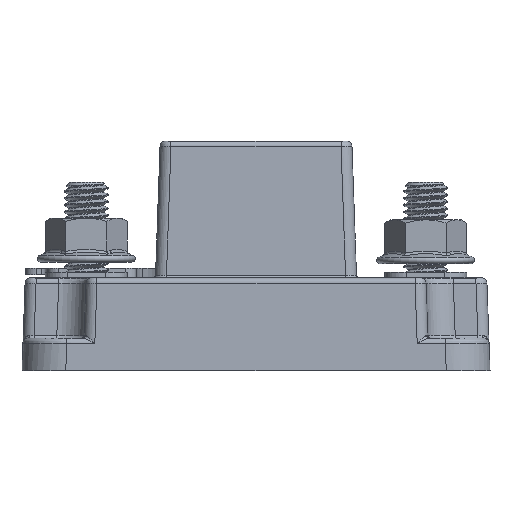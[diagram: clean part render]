
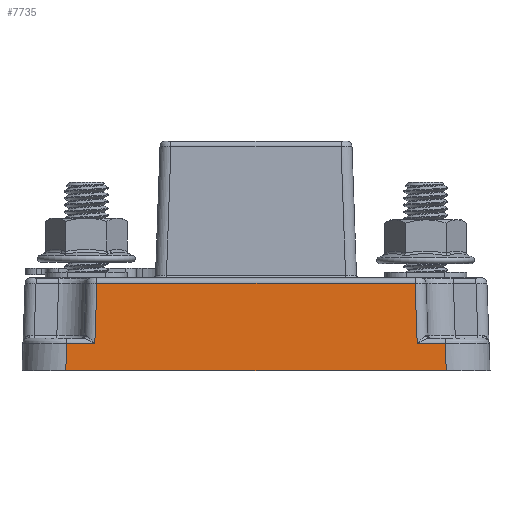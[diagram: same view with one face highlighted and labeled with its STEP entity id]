
A CAD part, front view. The second image highlights one B-rep face of the part: STEP entity #7735.
In plain terms, the highlighted planar face has unit normal (0, -0.999, 0.035).
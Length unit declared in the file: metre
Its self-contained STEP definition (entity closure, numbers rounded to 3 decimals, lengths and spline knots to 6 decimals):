
#368=LINE('',#13275,#962);
#447=LINE('',#13513,#1041);
#448=LINE('',#13515,#1042);
#449=LINE('',#13517,#1043);
#450=LINE('',#13518,#1044);
#451=LINE('',#13519,#1045);
#452=LINE('',#13521,#1046);
#453=LINE('',#13523,#1047);
#962=VECTOR('',#9412,1.);
#1041=VECTOR('',#9591,1.);
#1042=VECTOR('',#9592,1.);
#1043=VECTOR('',#9593,1.);
#1044=VECTOR('',#9594,1.);
#1045=VECTOR('',#9595,1.);
#1046=VECTOR('',#9596,1.);
#1047=VECTOR('',#9597,1.);
#1452=PLANE('',#8359);
#2324=ORIENTED_EDGE('',*,*,#4647,.T.);
#2325=ORIENTED_EDGE('',*,*,#4648,.T.);
#2326=ORIENTED_EDGE('',*,*,#4649,.T.);
#2327=ORIENTED_EDGE('',*,*,#4650,.T.);
#2328=ORIENTED_EDGE('',*,*,#4651,.T.);
#2329=ORIENTED_EDGE('',*,*,#4652,.T.);
#2330=ORIENTED_EDGE('',*,*,#4653,.T.);
#2331=ORIENTED_EDGE('',*,*,#4535,.T.);
#4535=EDGE_CURVE('',#5706,#5705,#368,.F.);
#4647=EDGE_CURVE('',#5705,#5788,#447,.F.);
#4648=EDGE_CURVE('',#5788,#5789,#448,.T.);
#4649=EDGE_CURVE('',#5789,#5543,#449,.F.);
#4650=EDGE_CURVE('',#5543,#5549,#450,.F.);
#4651=EDGE_CURVE('',#5549,#5790,#451,.F.);
#4652=EDGE_CURVE('',#5790,#5791,#452,.T.);
#4653=EDGE_CURVE('',#5791,#5706,#453,.F.);
#5543=VERTEX_POINT('',#12840);
#5549=VERTEX_POINT('',#12873);
#5705=VERTEX_POINT('',#13274);
#5706=VERTEX_POINT('',#13276);
#5788=VERTEX_POINT('',#13514);
#5789=VERTEX_POINT('',#13516);
#5790=VERTEX_POINT('',#13520);
#5791=VERTEX_POINT('',#13522);
#6580=EDGE_LOOP('',(#2324,#2325,#2326,#2327,#2328,#2329,#2330,#2331));
#7098=FACE_BOUND('',#6580,.T.);
#7735=ADVANCED_FACE('',(#7098),#1452,.T.);
#8359=AXIS2_PLACEMENT_3D('',#13512,#9589,#9590);
#9412=DIRECTION('',(-1.,0.,0.));
#9589=DIRECTION('',(0.,-0.999,0.035));
#9590=DIRECTION('',(0.,-0.035,-0.999));
#9591=DIRECTION('',(0.035,-0.035,-0.999));
#9592=DIRECTION('',(-1.,0.,0.));
#9593=DIRECTION('',(0.035,-0.035,-0.999));
#9594=DIRECTION('',(1.,0.,0.));
#9595=DIRECTION('',(0.035,0.035,0.999));
#9596=DIRECTION('',(-1.,0.,0.));
#9597=DIRECTION('',(0.035,0.035,0.999));
#12840=CARTESIAN_POINT('',(0.029061,-0.03744,0.005035));
#12873=CARTESIAN_POINT('',(-0.029061,-0.03744,0.005035));
#13274=CARTESIAN_POINT('',(0.034755,-0.038,-0.011));
#13275=CARTESIAN_POINT('',(0.,-0.038,-0.011));
#13276=CARTESIAN_POINT('',(-0.034755,-0.038,-0.011));
#13512=CARTESIAN_POINT('',(0.,-0.038,-0.011));
#13513=CARTESIAN_POINT('',(0.034555,-0.0378,-0.005279));
#13514=CARTESIAN_POINT('',(0.034579,-0.037824,-0.005965));
#13515=CARTESIAN_POINT('',(0.029412,-0.037824,-0.005965));
#13516=CARTESIAN_POINT('',(0.029446,-0.037824,-0.005965));
#13517=CARTESIAN_POINT('',(0.029585,-0.037964,-0.009968));
#13518=CARTESIAN_POINT('',(-0.029028,-0.03744,0.005035));
#13519=CARTESIAN_POINT('',(-0.029414,-0.037793,-0.00507));
#13520=CARTESIAN_POINT('',(-0.029446,-0.037824,-0.005965));
#13521=CARTESIAN_POINT('',(-0.034545,-0.037824,-0.005965));
#13522=CARTESIAN_POINT('',(-0.034579,-0.037824,-0.005965));
#13523=CARTESIAN_POINT('',(-0.034713,-0.037958,-0.009789));
